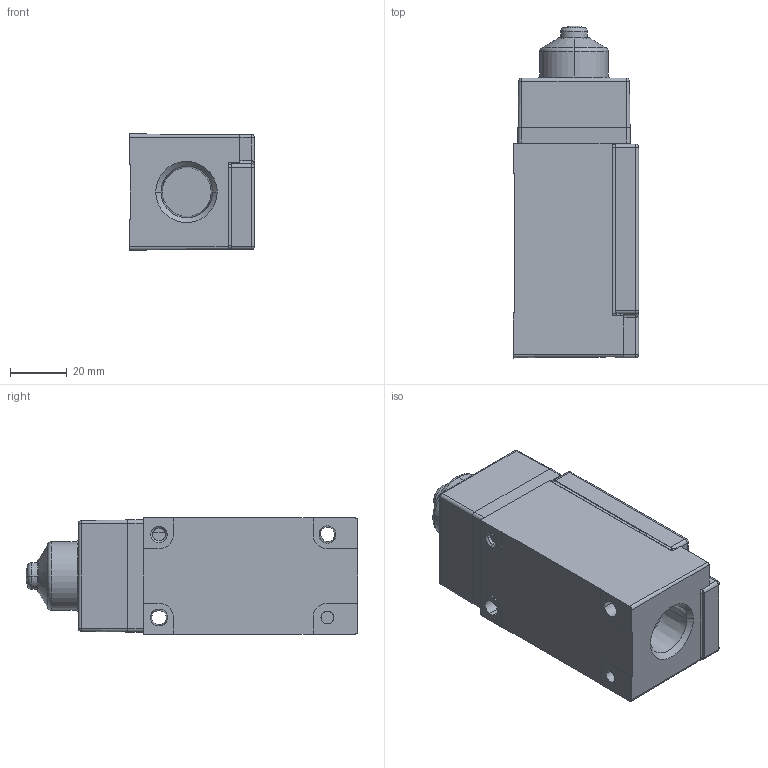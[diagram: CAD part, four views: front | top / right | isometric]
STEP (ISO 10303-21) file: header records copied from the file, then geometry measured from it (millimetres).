
FILE_DESCRIPTION((''),'2;1');
FILE_NAME('LSC3K_SW','2012-12-06T',('E522935'),(''),'PRO/ENGINEER BY PARAMETRIC TECHNOLOGY CORPORATION, 2009460','PRO/ENGINEER BY PARAMETRIC TECHNOLOGY CORPORATION, 2009460','');
FILE_SCHEMA(('CONFIG_CONTROL_DESIGN'));
Length unit declared in the file: inch
Products named in the file (1): LSC3K_SW
Bounding box: 44.32 x 117.35 x 41.15 mm (x, y, z)
Volume: 168201.7 mm3; surface area: 24614.4 mm2
Topology: 1 solids, 1 shells, 411 faces, 991 edges, 595 vertices
Faces by surface type: plane 231, cylinder 118, cone 30, sphere 24, torus 6, bspline 2
Entity records: 13155 total; most frequent: CARTESIAN_POINT 3437, DIRECTION 2101, ORIENTED_EDGE 1978, EDGE_CURVE 989, AXIS2_PLACEMENT_3D 763, VERTEX_POINT 595, VECTOR 575, LINE 575
